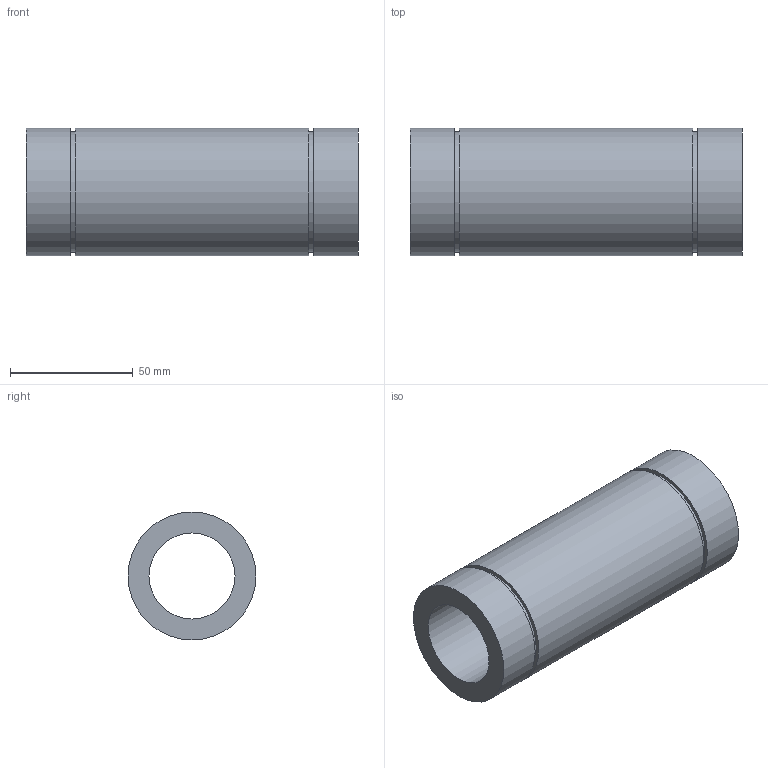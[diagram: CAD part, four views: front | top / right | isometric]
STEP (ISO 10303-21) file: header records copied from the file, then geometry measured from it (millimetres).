
FILE_DESCRIPTION(/* description */ ('Unknown'),/* implementation_level */ '2;1');
FILE_NAME(/* name */ 'LM35LUU',/* time_stamp */ '2025-02-03T15:03:34+08:00',/* author */ ('Unknown'),/* organization */ ('Unknown'),/* preprocessor_version */ 'ST-DEVELOPER v18.102',/* originating_system */ 'Solid Edge',/* authorisation */ 'Unknown');
FILE_SCHEMA (('AUTOMOTIVE_DESIGN {1 0 10303 214 3 1 1}'));
Length unit declared in the file: millimetre
Products named in the file (1): LM35LUU
Bounding box: 135 x 52 x 52 mm (x, y, z)
Volume: 155817 mm3; surface area: 40133.5 mm2
Topology: 1 solids, 1 shells, 12 faces, 20 edges, 14 vertices
Faces by surface type: cylinder 6, plane 6
Full cylindrical faces by diameter (mm): 35 x1, 49 x2, 52 x3
Entity records: 278 total; most frequent: DIRECTION 50, CARTESIAN_POINT 37, AXIS2_PLACEMENT_3D 25, ORIENTED_EDGE 24, EDGE_LOOP 24, FACE_BOUND 24, EDGE_CURVE 12, VERTEX_POINT 12
